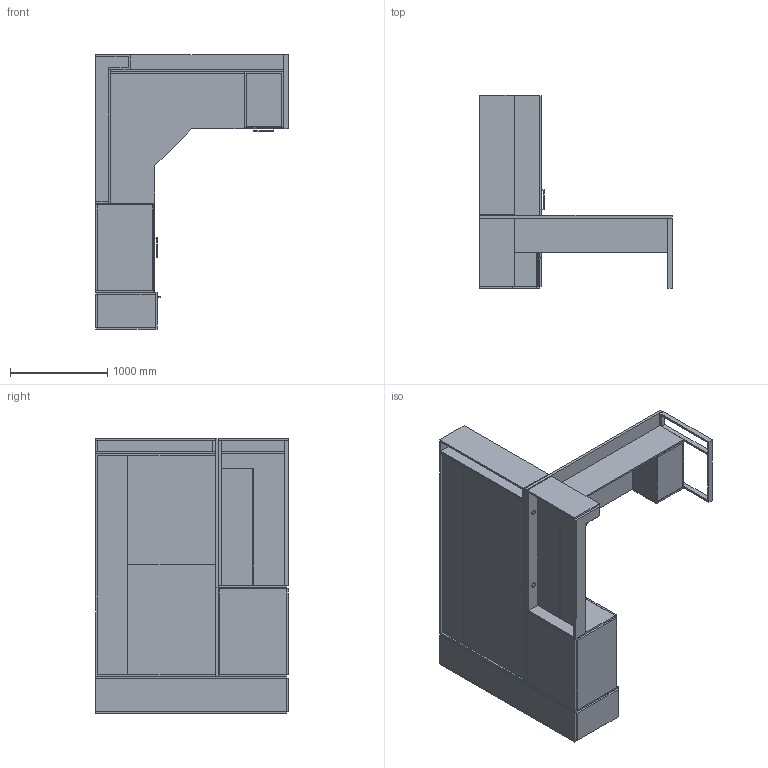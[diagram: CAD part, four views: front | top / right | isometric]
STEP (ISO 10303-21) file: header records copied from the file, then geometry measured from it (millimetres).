
FILE_DESCRIPTION(/* description */ ('','CAx-IF Rec.Pracs.---Representation and Presentation of Product Manufacturing Information (PMI)---4.0---2014-10-13'),/* implementation_level */ '2;1');
FILE_NAME(/* name */ 'BASYS^PO2.stp',/* time_stamp */ '2024-12-05T17:32:41-05:00',/* author */ ('mbowman'),/* organization */ (''),/* preprocessor_version */ 'ST-DEVELOPER v19.2',/* originating_system */ 'Autodesk Inventor 2023',/* authorisation */ '');
FILE_SCHEMA (('AP242_MANAGED_MODEL_BASED_3D_ENGINEERING_MIM_LF { 1 0 10303 442 1 1 4 }'));
Length unit declared in the file: inch
Products named in the file (17): BASYS^OFFICE 2_6X6 BOX UPPER LT-RIGHT HAND OFFICE; BASYS^OFFICE 2_DESK-LOOP LEG LT BOOMERANG; BASYS^OFFICE 1_DESK-78x60 WORKSURFACE; BASYS^METAL BASE_30 INCH LEG-6 INCH OFFSET RAIL; BASYS^DESK_STAND ALONE TOPS-27.50 LEG REVEAL SPACER; BASYS^OFFICE 2_MODESTY-70x13; BASYS^OFFICE 2_DESK-71.25 FRONT RAIL; BASYS^OFFICE 2_60 WIRE WALL-ACCESS RIGHT; BASYS^24 DEEP PED_LEGAL LAT-FF PED; BASYS^24 DEEP PED_LEGAL LAT-FF PED_1; BASYS^PEDESTALS_OVERLAY TOPS-24x36; BASYS^OFFICE 2_WARDROBE-15x25x78-RIGHT END; BASYS^OFFICE 2_WARDROBE-15x25x78-PARTS SOLID; BASYS^OFFICE 2_WALL HUNGS-1.50x48.50x96-FIXED SHELF W LIGHT; BASYS^23.3125 HANGING PED_LETTER LEFT-BB PED; BASYS^HANGING PED_LETTER LEFT-BB PED; SCHWINN-BAR PULL 2334.192
Assembly tree (20 placements, depth 3):
  BASYS^OFFICE 2_6X6 BOX UPPER LT-RIGHT HAND OFFICE
    BASYS^OFFICE 2_DESK-LOOP LEG LT BOOMERANG
      BASYS^OFFICE 1_DESK-78x60 WORKSURFACE
      BASYS^METAL BASE_30 INCH LEG-6 INCH OFFSET RAIL
      BASYS^DESK_STAND ALONE TOPS-27.50 LEG REVEAL SPACER
      BASYS^OFFICE 2_MODESTY-70x13
      BASYS^OFFICE 2_DESK-71.25 FRONT RAIL
    BASYS^OFFICE 2_60 WIRE WALL-ACCESS RIGHT
    BASYS^24 DEEP PED_LEGAL LAT-FF PED
      BASYS^24 DEEP PED_LEGAL LAT-FF PED_1
      SCHWINN-BAR PULL 2334.192  x2
    BASYS^PEDESTALS_OVERLAY TOPS-24x36
    BASYS^OFFICE 2_WARDROBE-15x25x78-RIGHT END
      SCHWINN-BAR PULL 2334.192
      BASYS^OFFICE 2_WARDROBE-15x25x78-PARTS SOLID
    BASYS^OFFICE 2_WALL HUNGS-1.50x48.50x96-FIXED SHELF W LIGHT
    BASYS^23.3125 HANGING PED_LETTER LEFT-BB PED
      BASYS^HANGING PED_LETTER LEFT-BB PED
      SCHWINN-BAR PULL 2334.192  x2
Bounding box: 1981.2 x 1981.2 x 2819.4 mm (x, y, z)
Volume: 403499602.4 mm3; surface area: 39975741.2 mm2
Topology: 53 solids, 53 shells, 371 faces, 795 edges, 530 vertices
Faces by surface type: plane 367, cylinder 4
Full cylindrical faces by diameter (mm): 48.26 x4
Entity records: 11508 total; most frequent: CARTESIAN_POINT 2379, DIRECTION 1547, ORIENTED_EDGE 1398, EDGE_CURVE 699, LINE 691, VECTOR 691, STYLED_ITEM 547, VERTEX_POINT 466
